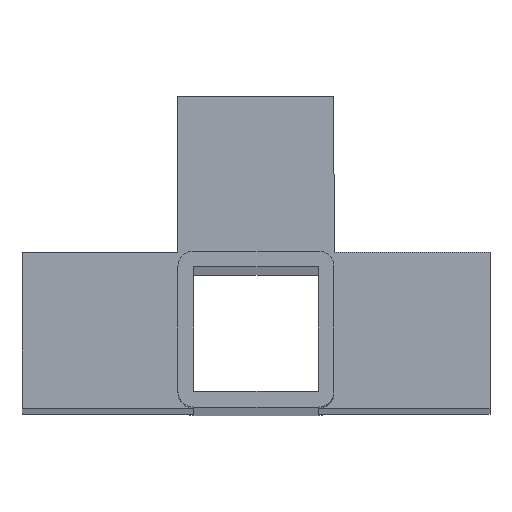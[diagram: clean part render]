
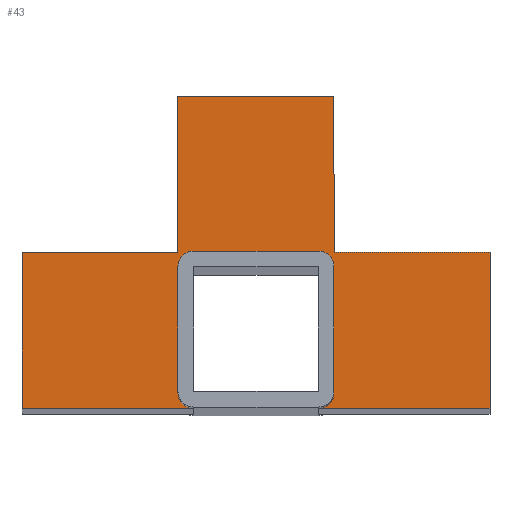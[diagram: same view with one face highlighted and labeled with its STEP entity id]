
A CAD part, top view. The second image highlights one B-rep face of the part: STEP entity #43.
In plain terms, the highlighted planar face has unit normal (0, 0, 1).
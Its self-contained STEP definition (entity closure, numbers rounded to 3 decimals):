
#8 = CARTESIAN_POINT ( 'NONE',  ( 15., 0., 325. ) ) ;
#17 = LINE ( 'NONE', #1549, #1378 ) ;
#20 = VECTOR ( 'NONE', #1399, 1000. ) ;
#31 = CARTESIAN_POINT ( 'NONE',  ( -15., 0., 325. ) ) ;
#33 = DIRECTION ( 'NONE',  ( 1., 0., 0. ) ) ;
#43 = ADVANCED_FACE ( 'NONE', ( #1461 ), #672, .T. ) ;
#64 = DIRECTION ( 'NONE',  ( -1., 0., 0. ) ) ;
#69 = ORIENTED_EDGE ( 'NONE', *, *, #1377, .F. ) ;
#87 = VECTOR ( 'NONE', #433, 1000. ) ;
#88 = ORIENTED_EDGE ( 'NONE', *, *, #1074, .F. ) ;
#95 = VERTEX_POINT ( 'NONE', #288 ) ;
#99 = CARTESIAN_POINT ( 'NONE',  ( 15., 0., 325. ) ) ;
#124 = VECTOR ( 'NONE', #652, 1000. ) ;
#131 = CARTESIAN_POINT ( 'NONE',  ( 12., -15., 325. ) ) ;
#148 = CARTESIAN_POINT ( 'NONE',  ( 0., 0., 325. ) ) ;
#154 = VERTEX_POINT ( 'NONE', #814 ) ;
#158 = LINE ( 'NONE', #312, #87 ) ;
#162 = LINE ( 'NONE', #356, #885 ) ;
#186 = VECTOR ( 'NONE', #446, 1000. ) ;
#218 = EDGE_CURVE ( 'NONE', #1247, #508, #412, .T. ) ;
#220 = CIRCLE ( 'NONE', #1465, 3. ) ;
#221 = AXIS2_PLACEMENT_3D ( 'NONE', #1567, #983, #605 ) ;
#223 = EDGE_LOOP ( 'NONE', ( #1030, #1068, #1123, #564, #520, #969, #1477, #802, #984, #806, #88, #246, #69, #1017, #317, #530 ) ) ;
#233 = EDGE_CURVE ( 'NONE', #95, #1221, #625, .T. ) ;
#241 = CIRCLE ( 'NONE', #221, 3. ) ;
#246 = ORIENTED_EDGE ( 'NONE', *, *, #1314, .F. ) ;
#250 = CARTESIAN_POINT ( 'NONE',  ( 0., 15., 325. ) ) ;
#288 = CARTESIAN_POINT ( 'NONE',  ( 45., -15., 325. ) ) ;
#290 = CARTESIAN_POINT ( 'NONE',  ( 0., -15., 325. ) ) ;
#312 = CARTESIAN_POINT ( 'NONE',  ( 45., 0., 325. ) ) ;
#313 = VECTOR ( 'NONE', #64, 1000. ) ;
#317 = ORIENTED_EDGE ( 'NONE', *, *, #523, .F. ) ;
#318 = CARTESIAN_POINT ( 'NONE',  ( -15., 45., 325. ) ) ;
#342 = CARTESIAN_POINT ( 'NONE',  ( 12., 12., 325. ) ) ;
#356 = CARTESIAN_POINT ( 'NONE',  ( -15., 0., 325. ) ) ;
#363 = EDGE_CURVE ( 'NONE', #541, #95, #158, .T. ) ;
#364 = AXIS2_PLACEMENT_3D ( 'NONE', #342, #1112, #838 ) ;
#412 = LINE ( 'NONE', #31, #20 ) ;
#428 = LINE ( 'NONE', #615, #487 ) ;
#433 = DIRECTION ( 'NONE',  ( 0., -1., 0. ) ) ;
#445 = DIRECTION ( 'NONE',  ( 1., 0., 0. ) ) ;
#446 = DIRECTION ( 'NONE',  ( 1., 0., 0. ) ) ;
#454 = DIRECTION ( 'NONE',  ( 0., 0., 1. ) ) ;
#480 = CARTESIAN_POINT ( 'NONE',  ( 15., -12., 325. ) ) ;
#487 = VECTOR ( 'NONE', #864, 1000. ) ;
#508 = VERTEX_POINT ( 'NONE', #1516 ) ;
#518 = LINE ( 'NONE', #250, #186 ) ;
#520 = ORIENTED_EDGE ( 'NONE', *, *, #1246, .F. ) ;
#523 = EDGE_CURVE ( 'NONE', #508, #154, #1187, .T. ) ;
#530 = ORIENTED_EDGE ( 'NONE', *, *, #218, .F. ) ;
#541 = VERTEX_POINT ( 'NONE', #716 ) ;
#562 = CARTESIAN_POINT ( 'NONE',  ( -12., 15., 325. ) ) ;
#564 = ORIENTED_EDGE ( 'NONE', *, *, #1193, .T. ) ;
#582 = EDGE_CURVE ( 'NONE', #724, #866, #518, .T. ) ;
#584 = CARTESIAN_POINT ( 'NONE',  ( -12., -12., 325. ) ) ;
#599 = DIRECTION ( 'NONE',  ( 1., 0., 0. ) ) ;
#602 = LINE ( 'NONE', #99, #775 ) ;
#605 = DIRECTION ( 'NONE',  ( 1., 0., 0. ) ) ;
#615 = CARTESIAN_POINT ( 'NONE',  ( 0., 15., 325. ) ) ;
#617 = CARTESIAN_POINT ( 'NONE',  ( 15., 12., 325. ) ) ;
#625 = LINE ( 'NONE', #290, #1350 ) ;
#626 = DIRECTION ( 'NONE',  ( 0., 1., 0. ) ) ;
#640 = DIRECTION ( 'NONE',  ( 0., 0., 1. ) ) ;
#642 = LINE ( 'NONE', #1556, #902 ) ;
#652 = DIRECTION ( 'NONE',  ( 0., -1., 0. ) ) ;
#660 = LINE ( 'NONE', #8, #124 ) ;
#672 = PLANE ( 'NONE',  #784 ) ;
#715 = CARTESIAN_POINT ( 'NONE',  ( 0., -15., 325. ) ) ;
#716 = CARTESIAN_POINT ( 'NONE',  ( 45., 15., 325. ) ) ;
#723 = VERTEX_POINT ( 'NONE', #1412 ) ;
#724 = VERTEX_POINT ( 'NONE', #562 ) ;
#772 = CARTESIAN_POINT ( 'NONE',  ( -15., 12., 325. ) ) ;
#775 = VECTOR ( 'NONE', #846, 1000. ) ;
#784 = AXIS2_PLACEMENT_3D ( 'NONE', #148, #800, #33 ) ;
#800 = DIRECTION ( 'NONE',  ( 0., 0., 1. ) ) ;
#802 = ORIENTED_EDGE ( 'NONE', *, *, #1473, .F. ) ;
#806 = ORIENTED_EDGE ( 'NONE', *, *, #1095, .F. ) ;
#814 = CARTESIAN_POINT ( 'NONE',  ( -12., -15., 325. ) ) ;
#816 = VERTEX_POINT ( 'NONE', #480 ) ;
#825 = DIRECTION ( 'NONE',  ( 0., 1., 0. ) ) ;
#838 = DIRECTION ( 'NONE',  ( 1., 0., 0. ) ) ;
#846 = DIRECTION ( 'NONE',  ( 0., -1., 0. ) ) ;
#864 = DIRECTION ( 'NONE',  ( 1., 0., 0. ) ) ;
#866 = VERTEX_POINT ( 'NONE', #1311 ) ;
#884 = VERTEX_POINT ( 'NONE', #1422 ) ;
#885 = VECTOR ( 'NONE', #626, 1000. ) ;
#902 = VECTOR ( 'NONE', #825, 1000. ) ;
#905 = CIRCLE ( 'NONE', #364, 3. ) ;
#969 = ORIENTED_EDGE ( 'NONE', *, *, #233, .F. ) ;
#983 = DIRECTION ( 'NONE',  ( 0., 0., 1. ) ) ;
#984 = ORIENTED_EDGE ( 'NONE', *, *, #1464, .F. ) ;
#987 = CARTESIAN_POINT ( 'NONE',  ( 15., 45., 325. ) ) ;
#1007 = EDGE_CURVE ( 'NONE', #866, #1135, #905, .T. ) ;
#1013 = CARTESIAN_POINT ( 'NONE',  ( 12., -12., 325. ) ) ;
#1017 = ORIENTED_EDGE ( 'NONE', *, *, #1387, .F. ) ;
#1030 = ORIENTED_EDGE ( 'NONE', *, *, #1032, .F. ) ;
#1032 = EDGE_CURVE ( 'NONE', #724, #1247, #241, .T. ) ;
#1068 = ORIENTED_EDGE ( 'NONE', *, *, #582, .T. ) ;
#1074 = EDGE_CURVE ( 'NONE', #1558, #1388, #162, .T. ) ;
#1093 = CARTESIAN_POINT ( 'NONE',  ( -45., -15., 325. ) ) ;
#1095 = EDGE_CURVE ( 'NONE', #1388, #1506, #1536, .T. ) ;
#1112 = DIRECTION ( 'NONE',  ( 0., 0., -1. ) ) ;
#1117 = CARTESIAN_POINT ( 'NONE',  ( 0., 45., 325. ) ) ;
#1123 = ORIENTED_EDGE ( 'NONE', *, *, #1007, .T. ) ;
#1135 = VERTEX_POINT ( 'NONE', #617 ) ;
#1148 = DIRECTION ( 'NONE',  ( 1., 0., 0. ) ) ;
#1187 = CIRCLE ( 'NONE', #1428, 3. ) ;
#1193 = EDGE_CURVE ( 'NONE', #1135, #816, #660, .T. ) ;
#1221 = VERTEX_POINT ( 'NONE', #131 ) ;
#1222 = VECTOR ( 'NONE', #1467, 1000. ) ;
#1246 = EDGE_CURVE ( 'NONE', #1221, #816, #220, .T. ) ;
#1247 = VERTEX_POINT ( 'NONE', #772 ) ;
#1311 = CARTESIAN_POINT ( 'NONE',  ( 12., 15., 325. ) ) ;
#1314 = EDGE_CURVE ( 'NONE', #884, #1558, #17, .T. ) ;
#1350 = VECTOR ( 'NONE', #1528, 1000. ) ;
#1377 = EDGE_CURVE ( 'NONE', #1432, #884, #642, .T. ) ;
#1378 = VECTOR ( 'NONE', #445, 1000. ) ;
#1387 = EDGE_CURVE ( 'NONE', #154, #1432, #1552, .T. ) ;
#1388 = VERTEX_POINT ( 'NONE', #318 ) ;
#1399 = DIRECTION ( 'NONE',  ( 0., -1., 0. ) ) ;
#1412 = CARTESIAN_POINT ( 'NONE',  ( 15., 15., 325. ) ) ;
#1422 = CARTESIAN_POINT ( 'NONE',  ( -45., 15., 325. ) ) ;
#1428 = AXIS2_PLACEMENT_3D ( 'NONE', #584, #454, #599 ) ;
#1432 = VERTEX_POINT ( 'NONE', #1093 ) ;
#1461 = FACE_OUTER_BOUND ( 'NONE', #223, .T. ) ;
#1464 = EDGE_CURVE ( 'NONE', #1506, #723, #602, .T. ) ;
#1465 = AXIS2_PLACEMENT_3D ( 'NONE', #1013, #640, #1148 ) ;
#1467 = DIRECTION ( 'NONE',  ( 1., 0., 0. ) ) ;
#1473 = EDGE_CURVE ( 'NONE', #723, #541, #428, .T. ) ;
#1477 = ORIENTED_EDGE ( 'NONE', *, *, #363, .F. ) ;
#1506 = VERTEX_POINT ( 'NONE', #987 ) ;
#1516 = CARTESIAN_POINT ( 'NONE',  ( -15., -12., 325. ) ) ;
#1528 = DIRECTION ( 'NONE',  ( -1., 0., 0. ) ) ;
#1536 = LINE ( 'NONE', #1117, #1222 ) ;
#1549 = CARTESIAN_POINT ( 'NONE',  ( 0., 15., 325. ) ) ;
#1552 = LINE ( 'NONE', #715, #313 ) ;
#1556 = CARTESIAN_POINT ( 'NONE',  ( -45., 0., 325. ) ) ;
#1558 = VERTEX_POINT ( 'NONE', #1583 ) ;
#1567 = CARTESIAN_POINT ( 'NONE',  ( -12., 12., 325. ) ) ;
#1583 = CARTESIAN_POINT ( 'NONE',  ( -15., 15., 325. ) ) ;
